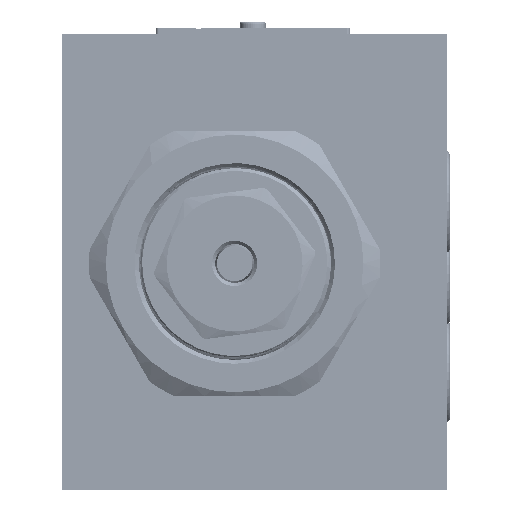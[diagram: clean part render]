
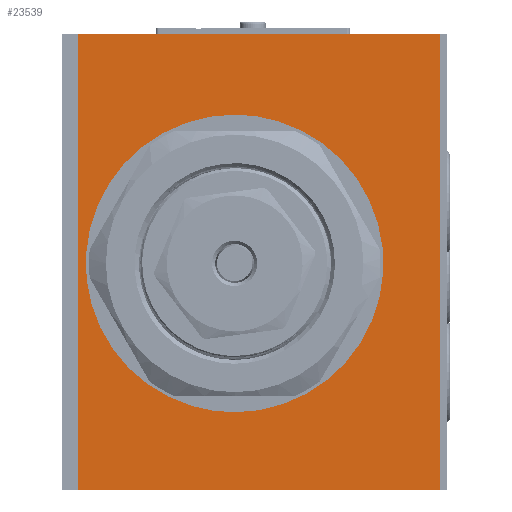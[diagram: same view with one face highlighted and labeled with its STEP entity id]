
A CAD part, left-side view. The second image highlights one B-rep face of the part: STEP entity #23539.
In plain terms, the highlighted planar face has unit normal (1, 0, 0).
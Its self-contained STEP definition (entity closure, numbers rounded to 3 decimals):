
#2960=LINE('',#87540,#4289);
#2961=LINE('',#87543,#4290);
#2962=LINE('',#87545,#4291);
#2963=LINE('',#87547,#4292);
#4289=VECTOR('',#35732,1.);
#4290=VECTOR('',#35733,1.);
#4291=VECTOR('',#35734,1.);
#4292=VECTOR('',#35735,1.);
#5583=B_SPLINE_CURVE_WITH_KNOTS('',3,(#87518,#87519,#87520,#87521,#87522,
#87523,#87524,#87525,#87526,#87527),.UNSPECIFIED.,.F.,.F.,(4,2,2,2,4),(0.,
0.25,0.5,0.75,1.),.UNSPECIFIED.);
#5584=B_SPLINE_CURVE_WITH_KNOTS('',3,(#87530,#87531,#87532,#87533,#87534,
#87535,#87536,#87537,#87538,#87539),.UNSPECIFIED.,.F.,.F.,(4,2,2,2,4),(0.,
0.25,0.5,0.75,1.),.UNSPECIFIED.);
#6552=PLANE('',#29995);
#8934=EDGE_LOOP('',(#14862,#14863));
#8935=EDGE_LOOP('',(#14864,#14865,#14866,#14867));
#14862=ORIENTED_EDGE('',*,*,#18557,.T.);
#14863=ORIENTED_EDGE('',*,*,#18558,.T.);
#14864=ORIENTED_EDGE('',*,*,#18559,.T.);
#14865=ORIENTED_EDGE('',*,*,#18560,.T.);
#14866=ORIENTED_EDGE('',*,*,#18561,.T.);
#14867=ORIENTED_EDGE('',*,*,#18562,.T.);
#18557=EDGE_CURVE('',#27334,#27335,#5583,.T.);
#18558=EDGE_CURVE('',#27335,#27334,#5584,.T.);
#18559=EDGE_CURVE('',#27336,#27337,#2960,.T.);
#18560=EDGE_CURVE('',#27337,#27338,#2961,.T.);
#18561=EDGE_CURVE('',#27338,#27339,#2962,.T.);
#18562=EDGE_CURVE('',#27339,#27336,#2963,.T.);
#23539=ADVANCED_FACE('',(#24751,#24752),#6552,.T.);
#24751=FACE_BOUND('',#8934,.T.);
#24752=FACE_BOUND('',#8935,.T.);
#27334=VERTEX_POINT('',#87528);
#27335=VERTEX_POINT('',#87529);
#27336=VERTEX_POINT('',#87541);
#27337=VERTEX_POINT('',#87542);
#27338=VERTEX_POINT('',#87544);
#27339=VERTEX_POINT('',#87546);
#29995=AXIS2_PLACEMENT_3D('',#87548,#35736,#35737);
#35732=DIRECTION('',(0.,0.,-1.));
#35733=DIRECTION('',(0.,1.,0.));
#35734=DIRECTION('',(0.,0.,1.));
#35735=DIRECTION('',(0.,-1.,0.));
#35736=DIRECTION('',(1.,0.,0.));
#35737=DIRECTION('',(0.,0.,-1.));
#87518=CARTESIAN_POINT('',(-75.,32.8,-23.25));
#87519=CARTESIAN_POINT('',(-75.,26.775,-23.25));
#87520=CARTESIAN_POINT('',(-75.,20.796,-20.772));
#87521=CARTESIAN_POINT('',(-75.,12.277,-12.254));
#87522=CARTESIAN_POINT('',(-75.,9.8,-6.273));
#87523=CARTESIAN_POINT('',(-75.,9.8,5.773));
#87524=CARTESIAN_POINT('',(-75.,12.278,11.754));
#87525=CARTESIAN_POINT('',(-75.,20.796,20.273));
#87526=CARTESIAN_POINT('',(-75.,26.772,22.75));
#87527=CARTESIAN_POINT('',(-75.,32.8,22.75));
#87528=CARTESIAN_POINT('',(-75.,32.8,-23.25));
#87529=CARTESIAN_POINT('',(-75.,32.8,22.75));
#87530=CARTESIAN_POINT('',(-75.,32.8,22.75));
#87531=CARTESIAN_POINT('',(-75.,38.825,22.75));
#87532=CARTESIAN_POINT('',(-75.,44.804,20.272));
#87533=CARTESIAN_POINT('',(-75.,53.323,11.754));
#87534=CARTESIAN_POINT('',(-75.,55.8,5.773));
#87535=CARTESIAN_POINT('',(-75.,55.8,-6.273));
#87536=CARTESIAN_POINT('',(-75.,53.322,-12.254));
#87537=CARTESIAN_POINT('',(-75.,44.804,-20.773));
#87538=CARTESIAN_POINT('',(-75.,38.828,-23.25));
#87539=CARTESIAN_POINT('',(-75.,32.8,-23.25));
#87540=CARTESIAN_POINT('',(-75.,1.,0.));
#87541=CARTESIAN_POINT('',(-75.,1.,35.25));
#87542=CARTESIAN_POINT('',(-75.,1.,-35.25));
#87543=CARTESIAN_POINT('',(-75.,29.,-35.25));
#87544=CARTESIAN_POINT('',(-75.,57.,-35.25));
#87545=CARTESIAN_POINT('',(-75.,57.,0.));
#87546=CARTESIAN_POINT('',(-75.,57.,35.25));
#87547=CARTESIAN_POINT('',(-75.,29.,35.25));
#87548=CARTESIAN_POINT('',(-75.,1.,35.25));
